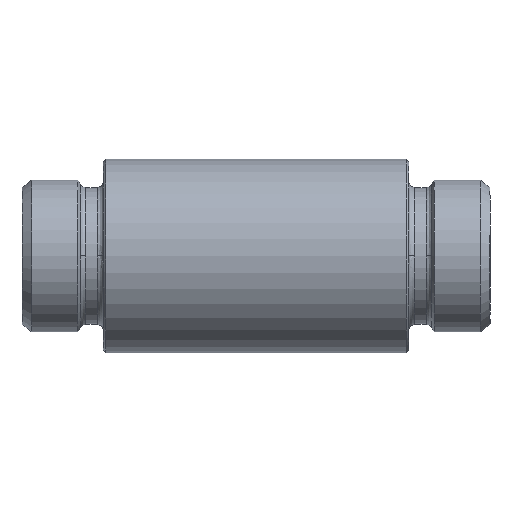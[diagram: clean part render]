
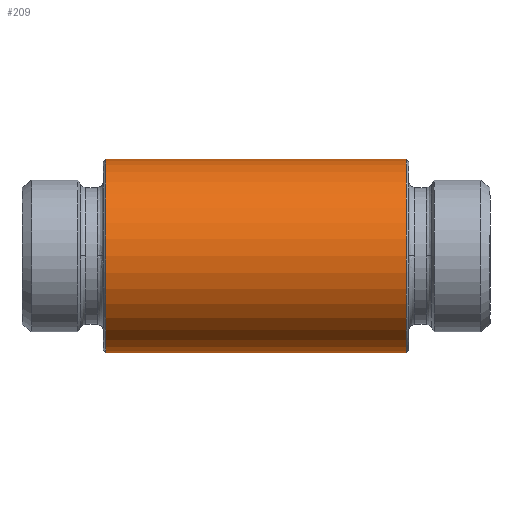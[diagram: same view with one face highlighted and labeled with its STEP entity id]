
A CAD part, top view. The second image highlights one B-rep face of the part: STEP entity #209.
In plain terms, the highlighted cylindrical face has radius 19 mm (diameter 38 mm), a partial arc.
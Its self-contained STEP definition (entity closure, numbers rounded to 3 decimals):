
#143=CARTESIAN_POINT('',(-19.0,0.,34.5));
#144=VERTEX_POINT('',#143);
#160=CARTESIAN_POINT('',(19.0,0.0,34.5));
#161=VERTEX_POINT('',#160);
#168=CARTESIAN_POINT('',(0.0,0.0,34.5));
#169=DIRECTION('',(0.0,0.0,1.0));
#170=DIRECTION('',(-1.0,0.0,0.0));
#171=AXIS2_PLACEMENT_3D('',#168,#169,#170);
#172=CIRCLE('',#171,19.0);
#173=EDGE_CURVE('',#161,#144,#172,.T.);
#178=CARTESIAN_POINT('',(0.0,0.0,-25.0));
#179=DIRECTION('',(0.0,0.0,1.0));
#180=DIRECTION('',(1.0,0.0,0.0));
#181=AXIS2_PLACEMENT_3D('',#178,#179,#180);
#182=CYLINDRICAL_SURFACE('',#181,19.0);
#183=CARTESIAN_POINT('',(19.0,0.0,-24.5));
#184=VERTEX_POINT('',#183);
#185=CARTESIAN_POINT('',(19.0,0.0,-24.5));
#186=DIRECTION('',(0.0,0.0,1.0));
#187=VECTOR('',#186,59.0);
#188=LINE('',#185,#187);
#189=EDGE_CURVE('',#184,#161,#188,.T.);
#190=ORIENTED_EDGE('',*,*,#189,.F.);
#191=CARTESIAN_POINT('',(-19.0,0.,-24.5));
#192=VERTEX_POINT('',#191);
#193=CARTESIAN_POINT('',(0.0,0.0,-24.5));
#194=DIRECTION('',(0.0,0.0,-1.0));
#195=DIRECTION('',(-1.0,0.0,0.0));
#196=AXIS2_PLACEMENT_3D('',#193,#194,#195);
#197=CIRCLE('',#196,19.0);
#198=EDGE_CURVE('',#192,#184,#197,.T.);
#199=ORIENTED_EDGE('',*,*,#198,.F.);
#200=CARTESIAN_POINT('',(-19.0,0.,34.5));
#201=DIRECTION('',(0.0,0.0,-1.0));
#202=VECTOR('',#201,59.0);
#203=LINE('',#200,#202);
#204=EDGE_CURVE('',#144,#192,#203,.T.);
#205=ORIENTED_EDGE('',*,*,#204,.F.);
#206=ORIENTED_EDGE('',*,*,#173,.F.);
#207=EDGE_LOOP('',(#190,#199,#205,#206));
#208=FACE_OUTER_BOUND('',#207,.T.);
#209=ADVANCED_FACE('',(#208),#182,.T.);
